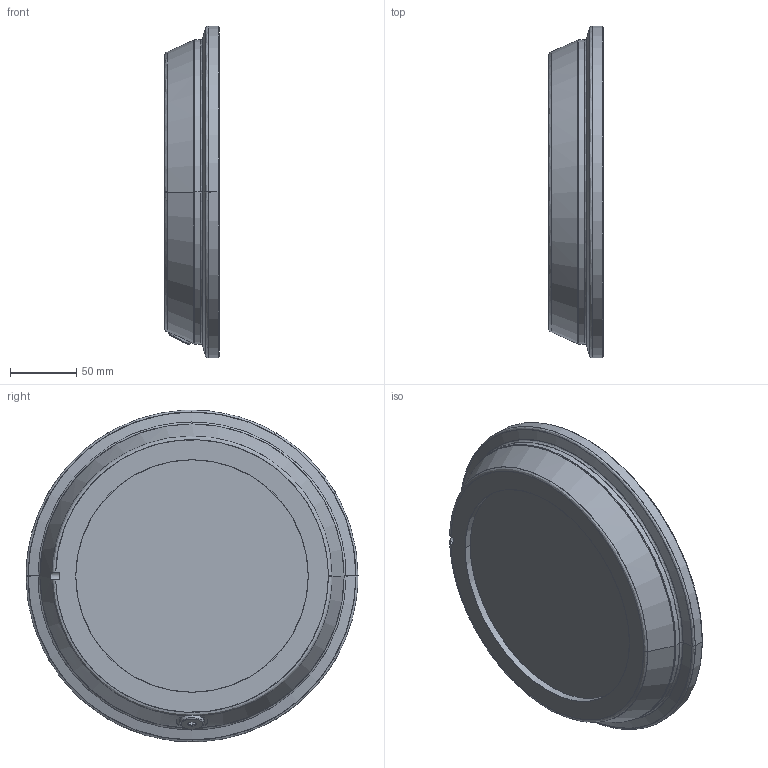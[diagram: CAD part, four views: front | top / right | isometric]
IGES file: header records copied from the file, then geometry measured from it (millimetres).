
Start section: SolidWorks IGES file using analytic representation for surfaces
Global section: file name: C:\Users\SEJAOLS6\OneDrive - ABB\Documents\SAP\7710\7710_Lightweight_models\IRB7710-MH3_310kg-350_OC_01_SW_J\IRB7710-MH3_310kg-350_OC_01_IGES_J\IRB77X0_All-350_OC_00_LINK06_CAD.igs; native system: SolidWorks 2024; preprocessor: SolidWorks 2024; author: SEJAOLS6; date: 260127.072154; units: millimetre
Bounding box: 41.2 x 250 x 250 mm (x, y, z)
Surface area: 164877.2 mm2 (no closed solid volume)
Topology: 0 solids, 0 shells, 247 faces, 4343 edges, 4315 vertices
Faces by surface type: revolution 188, bspline 59
